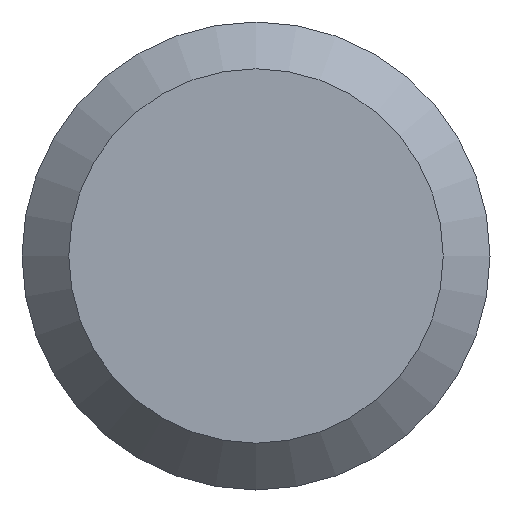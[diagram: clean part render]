
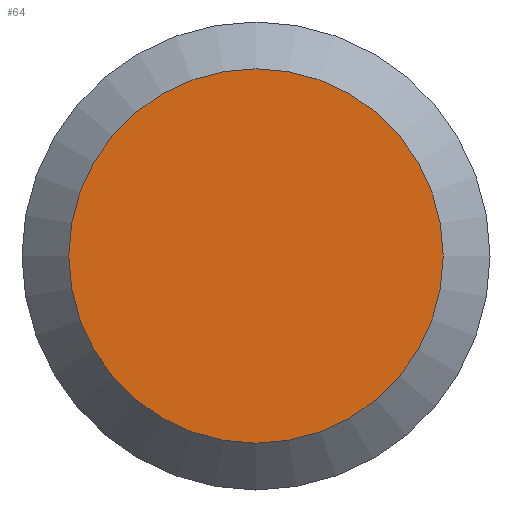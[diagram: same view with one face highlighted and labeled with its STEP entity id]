
A CAD part, left-side view. The second image highlights one B-rep face of the part: STEP entity #64.
In plain terms, the highlighted planar face has unit normal (-1, 0, 0).
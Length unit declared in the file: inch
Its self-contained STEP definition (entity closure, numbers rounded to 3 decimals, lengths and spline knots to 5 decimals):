
#1 = VERTEX_POINT ( 'NONE', #93 ) ;
#7 = PLANE ( 'NONE',  #83 ) ;
#12 = FACE_OUTER_BOUND ( 'NONE', #127, .T. ) ;
#20 = DIRECTION ( 'NONE',  ( -1., 0., 0. ) ) ;
#24 = ORIENTED_EDGE ( 'NONE', *, *, #208, .T. ) ;
#31 = CARTESIAN_POINT ( 'NONE',  ( 0., 0.125, 0. ) ) ;
#49 = CIRCLE ( 'NONE', #67, 0.1 ) ;
#54 = DIRECTION ( 'NONE',  ( 0., 0., -1. ) ) ;
#64 = ADVANCED_FACE ( 'NONE', ( #12 ), #7, .F. ) ;
#67 = AXIS2_PLACEMENT_3D ( 'NONE', #203, #20, #200 ) ;
#83 = AXIS2_PLACEMENT_3D ( 'NONE', #31, #91, #54 ) ;
#91 = DIRECTION ( 'NONE',  ( 1., 0., 0. ) ) ;
#93 = CARTESIAN_POINT ( 'NONE',  ( 0., 0., -0.1 ) ) ;
#127 = EDGE_LOOP ( 'NONE', ( #24 ) ) ;
#200 = DIRECTION ( 'NONE',  ( 0., 0., -1. ) ) ;
#203 = CARTESIAN_POINT ( 'NONE',  ( 0., 0., 0. ) ) ;
#208 = EDGE_CURVE ( 'NONE', #1, #1, #49, .T. ) ;
